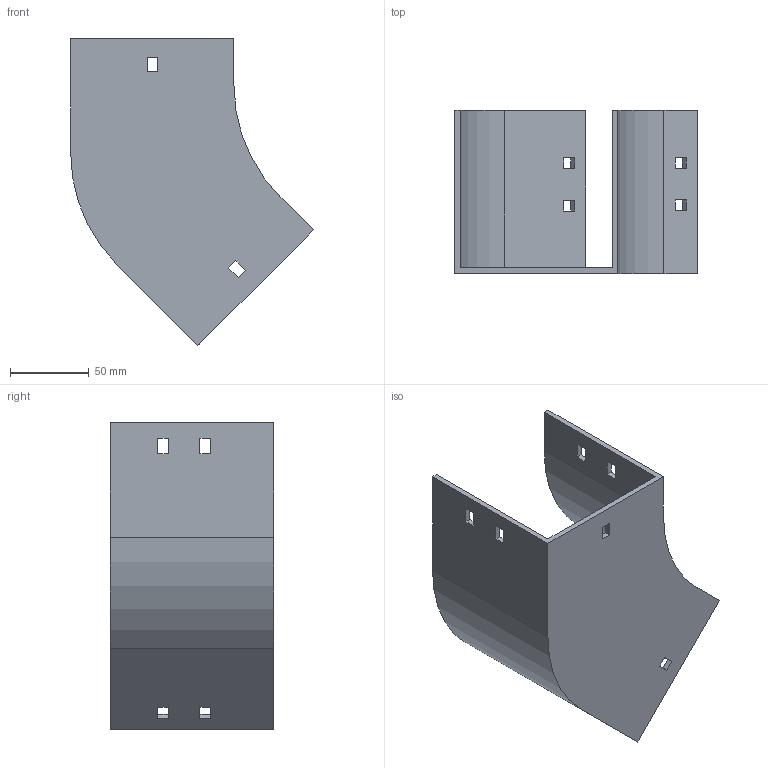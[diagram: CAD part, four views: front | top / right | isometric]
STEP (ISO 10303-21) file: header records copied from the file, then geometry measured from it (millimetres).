
FILE_DESCRIPTION (( 'STEP AP214' ), '1' );
FILE_NAME ('11F1D100.step', '2025-02-21T12:54:54', ( '' ), ( '' ), 'SwSTEP 2.0', 'SolidWorks 2023', '' );
FILE_SCHEMA (( 'AUTOMOTIVE_DESIGN' ));
Length unit declared in the file: millimetre
Products named in the file (1): 11F1D100
Bounding box: 154.5 x 104 x 195.46 mm (x, y, z)
Volume: 193074 mm3; surface area: 114903.3 mm2
Topology: 1 solids, 1 shells, 58 faces, 168 edges, 112 vertices
Faces by surface type: plane 54, cylinder 4
Entity records: 1943 total; most frequent: CARTESIAN_POINT 339, ORIENTED_EDGE 336, DIRECTION 294, EDGE_CURVE 168, LINE 160, VECTOR 160, VERTEX_POINT 112, EDGE_LOOP 78
